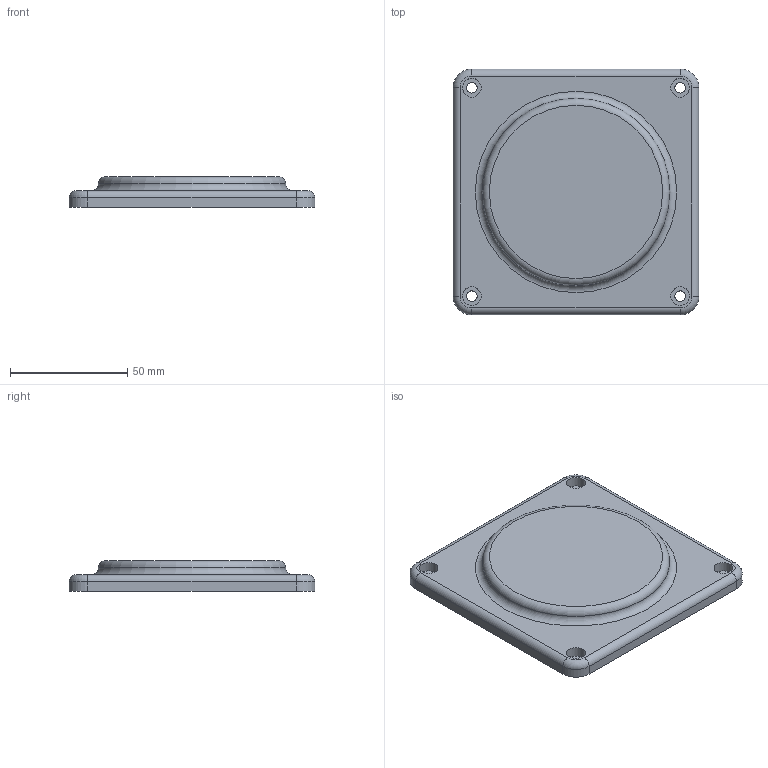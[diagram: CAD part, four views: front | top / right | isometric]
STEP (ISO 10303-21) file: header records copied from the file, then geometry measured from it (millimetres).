
FILE_DESCRIPTION(/* description */ (''),/* implementation_level */ '2;1');
FILE_NAME(/* name */ '',/* time_stamp */ '2024-08-02T13:14:40+09:00',/* author */ ('jhkim'),/* organization */ (''),/* preprocessor_version */ 'ST-DEVELOPER v20',/* originating_system */ 'Autodesk Inventor 2025',/* authorisation */ '');
FILE_SCHEMA (('AUTOMOTIVE_DESIGN { 1 0 10303 214 3 1 1 }'));
Length unit declared in the file: millimetre
Products named in the file (1): 상부커버
Bounding box: 105 x 105 x 13 mm (x, y, z)
Volume: 105139.4 mm3; surface area: 25579.7 mm2
Topology: 1 solids, 1 shells, 33 faces, 69 edges, 43 vertices
Faces by surface type: cylinder 16, plane 11, torus 6
Full cylindrical faces by diameter (mm): 4.5 x4, 8 x4
Entity records: 951 total; most frequent: DIRECTION 178, CARTESIAN_POINT 146, ORIENTED_EDGE 138, AXIS2_PLACEMENT_3D 75, EDGE_CURVE 69, EDGE_LOOP 46, VERTEX_POINT 43, CIRCLE 41
